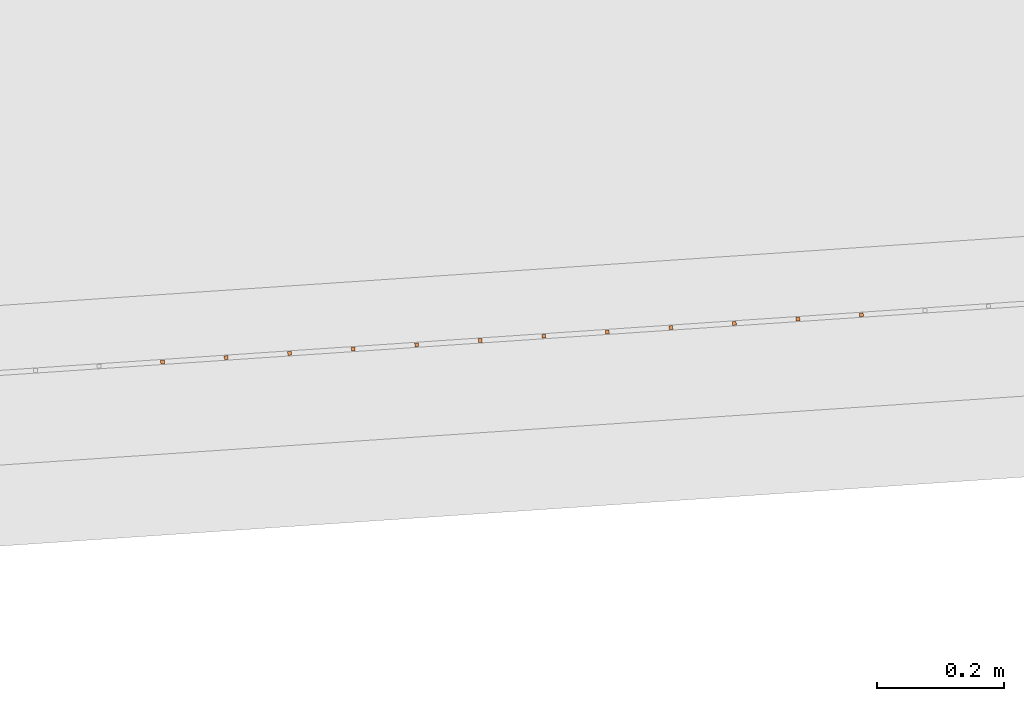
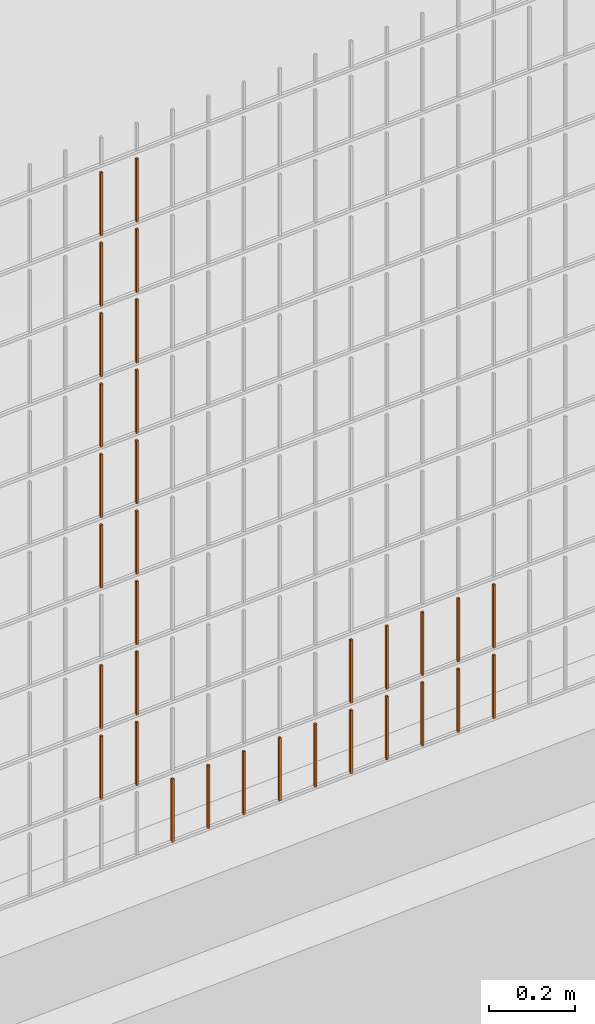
# One storey, part 330 of 1809: 32 proxies, 1 element without a shape of its own.
"""IFC2X3 building model written with IfcOpenShell, lengths in millimetres."""

from ifc_helpers import new_model, entity, si_unit, converted_unit, derived_unit, money_unit, direction, frame, origin_with_axes, place, context, subcontext, project, spatial, faceted_brep, source, transform, mapped, material, type_object, element, aggregate, save


model = new_model("IFC2X3")

# Units and contexts
model_context = context("Model", 3, precision=0.01, world=origin_with_axes(), true_north=direction((0.0, 1.0)))
body_context = subcontext(model_context, "Body", "Model", "MODEL_VIEW")
ifc_project = project(units=[si_unit("LENGTHUNIT", "METRE", prefix="MILLI"), si_unit("AREAUNIT", "SQUARE_METRE"), si_unit("VOLUMEUNIT", "CUBIC_METRE"), converted_unit("PLANEANGLEUNIT", "DEGREE", entity("IfcPlaneAngleMeasure", 0.0174532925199), si_unit("PLANEANGLEUNIT", "RADIAN"), dimensions=[0, 0, 0, 0, 0, 0, 0]), si_unit("SOLIDANGLEUNIT", "STERADIAN"), money_unit("EUR"), converted_unit("TIMEUNIT", "Year", entity("IfcTimeMeasure", 31556926.0), si_unit("TIMEUNIT", "SECOND"), dimensions=[0, 0, 1, 0, 0, 0, 0]), si_unit("MASSUNIT", "GRAM", prefix="KILO"), si_unit("THERMODYNAMICTEMPERATUREUNIT", "DEGREE_CELSIUS"), si_unit("LUMINOUSINTENSITYUNIT", "LUMEN"), si_unit("ENERGYUNIT", "JOULE", prefix="MEGA"), derived_unit("THERMALCONDUCTANCEUNIT", [(si_unit("POWERUNIT", "WATT"), 1), (si_unit("LENGTHUNIT", "METRE"), -1), (si_unit("THERMODYNAMICTEMPERATUREUNIT", "KELVIN"), -1)]), derived_unit("SPECIFICHEATCAPACITYUNIT", [(si_unit("ENERGYUNIT", "JOULE"), 1), (si_unit("MASSUNIT", "GRAM", prefix="KILO"), -1), (si_unit("THERMODYNAMICTEMPERATUREUNIT", "KELVIN"), -1)]), derived_unit("MASSDENSITYUNIT", [(si_unit("MASSUNIT", "GRAM", prefix="KILO"), 1), (si_unit("VOLUMEUNIT", "CUBIC_METRE"), -1)])], contexts=[model_context])

# Site, building, storey
site_placement = place(None, origin_with_axes())
site = spatial("IfcSite", under=ifc_project, at=site_placement, Name="Politse- ja Piirivalveameti ning Päästeameti ühishoone", CompositionType="ELEMENT")
building_placement = place(site_placement, origin_with_axes())
building = spatial("IfcBuilding", under=site, at=building_placement, Name="Politse- ja Piirivalveameti ning Päästeameti ühishoone", CompositionType="ELEMENT")
storey_placement = place(building_placement, origin_with_axes())
storey = spatial("IfcBuildingStorey", under=building, at=storey_placement, Name="Esimene korrus", CompositionType="ELEMENT", Elevation=0.0)

# Proxies
building_element_proxy_type_1 = type_object("IfcBuildingElementProxyType", Name="Railing Type", PredefinedType="NOTDEFINED")
proxy_1_placement = place(storey_placement, frame((89252.001212, -29183.4766571, 203.661247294), z_axis=(0.0, 0.0, 1.0), x_axis=(1.0, 0.0, 0.0)))
proxy_1 = element("IfcBuildingElementProxy", 1, at=proxy_1_placement, inside=storey, type_object=building_element_proxy_type_1, Name="PIIRDEAED")
ifc_material = material(Name="ET-03_Raud")
building_element_proxy_type_2 = type_object("IfcBuildingElementProxyType", Name="IfcBuildingElementProxy", PredefinedType="NOTDEFINED")
shared_shape_1 = source(origin_with_axes(), body_context, "Body", "Brep", [
    faceted_brep([(3.0, 3.0, -0.000752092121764), (-3.0, 3.0, -0.000752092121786), (-3.0, 3.0, 179.99926046), (3.0, 3.0, 179.99926046), (3.0, -3.0, 0.000752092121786), (-3.0, -3.0, 0.000752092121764), (-3.0, -3.0, 180.000764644), (3.0, -3.0, 180.000764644)], [[[0, 1, 2, 3]], [[0, 4, 5, 1]], [[1, 5, 6, 2]], [[3, 2, 6, 7]], [[4, 0, 3, 7]], [[5, 4, 7, 6]]]),
])
proxy_2_placement = place(proxy_1_placement, frame((-33650.011364, -19570.7060387, 18.7791934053), z_axis=(0.0, 0.0, 1.0), x_axis=(1.0, 0.0, 0.0)))
proxy_2 = element("IfcBuildingElementProxy", 2, at=proxy_2_placement, type_object=building_element_proxy_type_2, material=ifc_material, Name="BALUSTER - 001", context=body_context, shape_type="MappedRepresentation", body=[
    mapped(shared_shape_1, transform((0.0, 0.0, 0.0), x_axis=(-0.0673926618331, 0.997726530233, 0.0), y_axis=(-0.997726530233, -0.0673926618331, 0.0), z_axis=(0.0, 0.0, 1.0))),
])
shared_shape_2 = source(origin_with_axes(), body_context, "Body", "Brep", [
    faceted_brep([(3.0, 3.0, -0.000752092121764), (-3.0, 3.0, -0.000752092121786), (-3.0, 3.0, 179.99926046), (3.0, 3.0, 179.99926046), (3.0, -3.0, 0.000752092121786), (-3.0, -3.0, 0.000752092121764), (-3.0, -3.0, 180.000764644), (3.0, -3.0, 180.000764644)], [[[0, 1, 2, 3]], [[0, 4, 5, 1]], [[1, 5, 6, 2]], [[3, 2, 6, 7]], [[4, 0, 3, 7]], [[5, 4, 7, 6]]]),
])
proxy_3_placement = place(proxy_1_placement, frame((-34248.6472822, -19611.1416358, 218.628774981), z_axis=(0.0, 0.0, 1.0), x_axis=(1.0, 0.0, 0.0)))
proxy_3 = element("IfcBuildingElementProxy", 3, at=proxy_3_placement, type_object=building_element_proxy_type_2, material=ifc_material, Name="BALUSTER - 001", context=body_context, shape_type="MappedRepresentation", body=[
    mapped(shared_shape_2, transform((0.0, 0.0, 0.0), x_axis=(-0.0673926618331, 0.997726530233, 0.0), y_axis=(-0.997726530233, -0.0673926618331, 0.0), z_axis=(0.0, 0.0, 1.0))),
])
shared_shape_3 = source(origin_with_axes(), body_context, "Body", "Brep", [
    faceted_brep([(3.0, 3.0, -0.000752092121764), (-3.0, 3.0, -0.000752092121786), (-3.0, 3.0, 179.99926046), (3.0, 3.0, 179.99926046), (3.0, -3.0, 0.000752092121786), (-3.0, -3.0, 0.000752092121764), (-3.0, -3.0, 180.000764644), (3.0, -3.0, 180.000764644)], [[[0, 1, 2, 3]], [[0, 4, 5, 1]], [[1, 5, 6, 2]], [[3, 2, 6, 7]], [[4, 0, 3, 7]], [[5, 4, 7, 6]]]),
])
proxy_4_placement = place(proxy_1_placement, frame((-33650.011364, -19570.7060387, 218.779193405), z_axis=(0.0, 0.0, 1.0), x_axis=(1.0, 0.0, 0.0)))
proxy_4 = element("IfcBuildingElementProxy", 4, at=proxy_4_placement, type_object=building_element_proxy_type_2, material=ifc_material, Name="BALUSTER - 001", context=body_context, shape_type="MappedRepresentation", body=[
    mapped(shared_shape_3, transform((0.0, 0.0, 0.0), x_axis=(-0.0673926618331, 0.997726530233, 0.0), y_axis=(-0.997726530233, -0.0673926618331, 0.0), z_axis=(0.0, 0.0, 1.0))),
])
shared_shape_4 = source(origin_with_axes(), body_context, "Body", "Brep", [
    faceted_brep([(3.0, 3.0, -0.000752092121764), (-3.0, 3.0, -0.000752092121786), (-3.0, 3.0, 179.99926046), (3.0, 3.0, 179.99926046), (3.0, -3.0, 0.000752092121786), (-3.0, -3.0, 0.000752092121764), (-3.0, -3.0, 180.000764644), (3.0, -3.0, 180.000764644)], [[[0, 1, 2, 3]], [[0, 4, 5, 1]], [[1, 5, 6, 2]], [[3, 2, 6, 7]], [[4, 0, 3, 7]], [[5, 4, 7, 6]]]),
])
proxy_5_placement = place(proxy_1_placement, frame((-34248.6472822, -19611.1416358, 418.628774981), z_axis=(0.0, 0.0, 1.0), x_axis=(1.0, 0.0, 0.0)))
proxy_5 = element("IfcBuildingElementProxy", 5, at=proxy_5_placement, type_object=building_element_proxy_type_2, material=ifc_material, Name="BALUSTER - 001", context=body_context, shape_type="MappedRepresentation", body=[
    mapped(shared_shape_4, transform((0.0, 0.0, 0.0), x_axis=(-0.0673926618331, 0.997726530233, 0.0), y_axis=(-0.997726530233, -0.0673926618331, 0.0), z_axis=(0.0, 0.0, 1.0))),
])
shared_shape_5 = source(origin_with_axes(), body_context, "Body", "Brep", [
    faceted_brep([(3.0, 3.0, -0.000752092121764), (-3.0, 3.0, -0.000752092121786), (-3.0, 3.0, 179.99926046), (3.0, 3.0, 179.99926046), (3.0, -3.0, 0.000752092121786), (-3.0, -3.0, 0.000752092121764), (-3.0, -3.0, 180.000764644), (3.0, -3.0, 180.000764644)], [[[0, 1, 2, 3]], [[0, 4, 5, 1]], [[1, 5, 6, 2]], [[3, 2, 6, 7]], [[4, 0, 3, 7]], [[5, 4, 7, 6]]]),
])
proxy_6_placement = place(proxy_1_placement, frame((-34248.6472822, -19611.1416358, 618.628774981), z_axis=(0.0, 0.0, 1.0), x_axis=(1.0, 0.0, 0.0)))
proxy_6 = element("IfcBuildingElementProxy", 6, at=proxy_6_placement, type_object=building_element_proxy_type_2, material=ifc_material, Name="BALUSTER - 001", context=body_context, shape_type="MappedRepresentation", body=[
    mapped(shared_shape_5, transform((0.0, 0.0, 0.0), x_axis=(-0.0673926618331, 0.997726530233, 0.0), y_axis=(-0.997726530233, -0.0673926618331, 0.0), z_axis=(0.0, 0.0, 1.0))),
])
shared_shape_6 = source(origin_with_axes(), body_context, "Body", "Brep", [
    faceted_brep([(3.0, 3.0, -0.000752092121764), (-3.0, 3.0, -0.000752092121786), (-3.0, 3.0, 179.99926046), (3.0, 3.0, 179.99926046), (3.0, -3.0, 0.000752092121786), (-3.0, -3.0, 0.000752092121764), (-3.0, -3.0, 180.000764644), (3.0, -3.0, 180.000764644)], [[[0, 1, 2, 3]], [[0, 4, 5, 1]], [[1, 5, 6, 2]], [[3, 2, 6, 7]], [[4, 0, 3, 7]], [[5, 4, 7, 6]]]),
])
proxy_7_placement = place(proxy_1_placement, frame((-34248.6472822, -19611.1416358, 818.628774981), z_axis=(0.0, 0.0, 1.0), x_axis=(1.0, 0.0, 0.0)))
proxy_7 = element("IfcBuildingElementProxy", 7, at=proxy_7_placement, type_object=building_element_proxy_type_2, material=ifc_material, Name="BALUSTER - 001", context=body_context, shape_type="MappedRepresentation", body=[
    mapped(shared_shape_6, transform((0.0, 0.0, 0.0), x_axis=(-0.0673926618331, 0.997726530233, 0.0), y_axis=(-0.997726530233, -0.0673926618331, 0.0), z_axis=(0.0, 0.0, 1.0))),
])
shared_shape_7 = source(origin_with_axes(), body_context, "Body", "Brep", [
    faceted_brep([(3.0, 3.0, -0.000752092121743), (-3.0, 3.0, -0.000752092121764), (-3.0, 3.0, 179.99926046), (3.0, 3.0, 179.99926046), (3.0, -3.0, 0.000752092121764), (-3.0, -3.0, 0.000752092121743), (-3.0, -3.0, 180.000764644), (3.0, -3.0, 180.000764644)], [[[0, 1, 2, 3]], [[0, 4, 5, 1]], [[1, 5, 6, 2]], [[3, 2, 6, 7]], [[4, 0, 3, 7]], [[5, 4, 7, 6]]]),
])
proxy_8_placement = place(proxy_1_placement, frame((-34049.1019761, -19597.6631034, 18.6789144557), z_axis=(0.0, 0.0, 1.0), x_axis=(1.0, 0.0, 0.0)))
proxy_8 = element("IfcBuildingElementProxy", 8, at=proxy_8_placement, type_object=building_element_proxy_type_2, material=ifc_material, Name="BALUSTER - 001", context=body_context, shape_type="MappedRepresentation", body=[
    mapped(shared_shape_7, transform((0.0, 0.0, 0.0), x_axis=(-0.0673926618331, 0.997726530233, 0.0), y_axis=(-0.997726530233, -0.0673926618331, 0.0), z_axis=(0.0, 0.0, 1.0))),
])
shared_shape_8 = source(origin_with_axes(), body_context, "Body", "Brep", [
    faceted_brep([(3.0, 3.0, -0.000752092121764), (-3.0, 3.0, -0.000752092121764), (-3.0, 3.0, 179.99926046), (3.0, 3.0, 179.99926046), (3.0, -3.0, 0.000752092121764), (-3.0, -3.0, 0.000752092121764), (-3.0, -3.0, 180.000764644), (3.0, -3.0, 180.000764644)], [[[0, 1, 2, 3]], [[0, 4, 5, 1]], [[1, 5, 6, 2]], [[3, 2, 6, 7]], [[4, 0, 3, 7]], [[5, 4, 7, 6]]]),
])
proxy_9_placement = place(proxy_1_placement, frame((-33749.7840171, -19577.4453049, 18.7541236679), z_axis=(0.0, 0.0, 1.0), x_axis=(1.0, 0.0, 0.0)))
proxy_9 = element("IfcBuildingElementProxy", 9, at=proxy_9_placement, type_object=building_element_proxy_type_2, material=ifc_material, Name="BALUSTER - 001", context=body_context, shape_type="MappedRepresentation", body=[
    mapped(shared_shape_8, transform((0.0, 0.0, 0.0), x_axis=(-0.0673926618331, 0.997726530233, 0.0), y_axis=(-0.997726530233, -0.0673926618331, 0.0), z_axis=(0.0, 0.0, 1.0))),
])
shared_shape_9 = source(origin_with_axes(), body_context, "Body", "Brep", [
    faceted_brep([(3.0, 3.0, -0.000752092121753), (-3.0, 3.0, -0.000752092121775), (-3.0, 3.0, 179.99926046), (3.0, 3.0, 179.99926046), (3.0, -3.0, 0.000752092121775), (-3.0, -3.0, 0.000752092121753), (-3.0, -3.0, 180.000764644), (3.0, -3.0, 180.000764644)], [[[0, 1, 2, 3]], [[0, 4, 5, 1]], [[1, 5, 6, 2]], [[3, 2, 6, 7]], [[4, 0, 3, 7]], [[5, 4, 7, 6]]]),
])
proxy_10_placement = place(proxy_1_placement, frame((-34148.8746292, -19604.4023696, 18.6538447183), z_axis=(0.0, 0.0, 1.0), x_axis=(1.0, 0.0, 0.0)))
proxy_10 = element("IfcBuildingElementProxy", 10, at=proxy_10_placement, type_object=building_element_proxy_type_2, material=ifc_material, Name="BALUSTER - 001", context=body_context, shape_type="MappedRepresentation", body=[
    mapped(shared_shape_9, transform((0.0, 0.0, 0.0), x_axis=(-0.0673926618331, 0.997726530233, 0.0), y_axis=(-0.997726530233, -0.0673926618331, 0.0), z_axis=(0.0, 0.0, 1.0))),
])
shared_shape_10 = source(origin_with_axes(), body_context, "Body", "Brep", [
    faceted_brep([(3.0, 3.0, -0.000752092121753), (-3.0, 3.0, -0.000752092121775), (-3.0, 3.0, 179.99926046), (3.0, 3.0, 179.99926046), (3.0, -3.0, 0.000752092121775), (-3.0, -3.0, 0.000752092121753), (-3.0, -3.0, 180.000764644), (3.0, -3.0, 180.000764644)], [[[0, 1, 2, 3]], [[0, 4, 5, 1]], [[1, 5, 6, 2]], [[3, 2, 6, 7]], [[4, 0, 3, 7]], [[5, 4, 7, 6]]]),
])
proxy_11_placement = place(proxy_1_placement, frame((-33350.693405, -19550.4882401, 218.854402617), z_axis=(0.0, 0.0, 1.0), x_axis=(1.0, 0.0, 0.0)))
proxy_11 = element("IfcBuildingElementProxy", 11, at=proxy_11_placement, type_object=building_element_proxy_type_2, material=ifc_material, Name="BALUSTER - 001", context=body_context, shape_type="MappedRepresentation", body=[
    mapped(shared_shape_10, transform((0.0, 0.0, 0.0), x_axis=(-0.0673926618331, 0.997726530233, 0.0), y_axis=(-0.997726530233, -0.0673926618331, 0.0), z_axis=(0.0, 0.0, 1.0))),
])
shared_shape_11 = source(origin_with_axes(), body_context, "Body", "Brep", [
    faceted_brep([(3.0, 3.0, -0.000752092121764), (-3.0, 3.0, -0.000752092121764), (-3.0, 3.0, 179.99926046), (3.0, 3.0, 179.99926046), (3.0, -3.0, 0.000752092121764), (-3.0, -3.0, 0.000752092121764), (-3.0, -3.0, 180.000764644), (3.0, -3.0, 180.000764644)], [[[0, 1, 2, 3]], [[0, 4, 5, 1]], [[1, 5, 6, 2]], [[3, 2, 6, 7]], [[4, 0, 3, 7]], [[5, 4, 7, 6]]]),
])
proxy_12_placement = place(proxy_1_placement, frame((-34348.4199352, -19617.880902, 418.603705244), z_axis=(0.0, 0.0, 1.0), x_axis=(1.0, 0.0, 0.0)))
proxy_12 = element("IfcBuildingElementProxy", 12, at=proxy_12_placement, type_object=building_element_proxy_type_2, material=ifc_material, Name="BALUSTER - 001", context=body_context, shape_type="MappedRepresentation", body=[
    mapped(shared_shape_11, transform((0.0, 0.0, 0.0), x_axis=(-0.0673926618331, 0.997726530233, 0.0), y_axis=(-0.997726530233, -0.0673926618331, 0.0), z_axis=(0.0, 0.0, 1.0))),
])
shared_shape_12 = source(origin_with_axes(), body_context, "Body", "Brep", [
    faceted_brep([(3.0, 3.0, -0.000752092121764), (-3.0, 3.0, -0.000752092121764), (-3.0, 3.0, 179.99926046), (3.0, 3.0, 179.99926046), (3.0, -3.0, 0.000752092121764), (-3.0, -3.0, 0.000752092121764), (-3.0, -3.0, 180.000764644), (3.0, -3.0, 180.000764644)], [[[0, 1, 2, 3]], [[0, 4, 5, 1]], [[1, 5, 6, 2]], [[3, 2, 6, 7]], [[4, 0, 3, 7]], [[5, 4, 7, 6]]]),
])
proxy_13_placement = place(proxy_1_placement, frame((-33450.466058, -19557.2275063, 218.82933288), z_axis=(0.0, 0.0, 1.0), x_axis=(1.0, 0.0, 0.0)))
proxy_13 = element("IfcBuildingElementProxy", 13, at=proxy_13_placement, type_object=building_element_proxy_type_2, material=ifc_material, Name="BALUSTER - 001", context=body_context, shape_type="MappedRepresentation", body=[
    mapped(shared_shape_12, transform((0.0, 0.0, 0.0), x_axis=(-0.0673926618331, 0.997726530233, 0.0), y_axis=(-0.997726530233, -0.0673926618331, 0.0), z_axis=(0.0, 0.0, 1.0))),
])
shared_shape_13 = source(origin_with_axes(), body_context, "Body", "Brep", [
    faceted_brep([(3.0, 3.0, -0.000752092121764), (-3.0, 3.0, -0.000752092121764), (-3.0, 3.0, 179.99926046), (3.0, 3.0, 179.99926046), (3.0, -3.0, 0.000752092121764), (-3.0, -3.0, 0.000752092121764), (-3.0, -3.0, 180.000764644), (3.0, -3.0, 180.000764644)], [[[0, 1, 2, 3]], [[0, 4, 5, 1]], [[1, 5, 6, 2]], [[3, 2, 6, 7]], [[4, 0, 3, 7]], [[5, 4, 7, 6]]]),
])
proxy_14_placement = place(proxy_1_placement, frame((-34348.4199352, -19617.880902, 1218.60370524), z_axis=(0.0, 0.0, 1.0), x_axis=(1.0, 0.0, 0.0)))
proxy_14 = element("IfcBuildingElementProxy", 14, at=proxy_14_placement, type_object=building_element_proxy_type_2, material=ifc_material, Name="BALUSTER - 001", context=body_context, shape_type="MappedRepresentation", body=[
    mapped(shared_shape_13, transform((0.0, 0.0, 0.0), x_axis=(-0.0673926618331, 0.997726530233, 0.0), y_axis=(-0.997726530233, -0.0673926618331, 0.0), z_axis=(0.0, 0.0, 1.0))),
])
shared_shape_14 = source(origin_with_axes(), body_context, "Body", "Brep", [
    faceted_brep([(3.0, 3.0, -0.000752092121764), (-3.0, 3.0, -0.000752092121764), (-3.0, 3.0, 179.99926046), (3.0, 3.0, 179.99926046), (3.0, -3.0, 0.000752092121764), (-3.0, -3.0, 0.000752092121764), (-3.0, -3.0, 180.000764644), (3.0, -3.0, 180.000764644)], [[[0, 1, 2, 3]], [[0, 4, 5, 1]], [[1, 5, 6, 2]], [[3, 2, 6, 7]], [[4, 0, 3, 7]], [[5, 4, 7, 6]]]),
])
proxy_15_placement = place(proxy_1_placement, frame((-34348.4199352, -19617.880902, 818.603705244), z_axis=(0.0, 0.0, 1.0), x_axis=(1.0, 0.0, 0.0)))
proxy_15 = element("IfcBuildingElementProxy", 15, at=proxy_15_placement, type_object=building_element_proxy_type_2, material=ifc_material, Name="BALUSTER - 001", context=body_context, shape_type="MappedRepresentation", body=[
    mapped(shared_shape_14, transform((0.0, 0.0, 0.0), x_axis=(-0.0673926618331, 0.997726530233, 0.0), y_axis=(-0.997726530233, -0.0673926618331, 0.0), z_axis=(0.0, 0.0, 1.0))),
])
proxy_16_placement = place(proxy_1_placement, frame((-34348.4199352, -19617.880902, 1818.60370524), z_axis=(0.0, 0.0, 1.0), x_axis=(1.0, 0.0, 0.0)))
proxy_16 = element("IfcBuildingElementProxy", 16, at=proxy_16_placement, type_object=building_element_proxy_type_2, material=ifc_material, Name="BALUSTER - 001", context=body_context, shape_type="MappedRepresentation", body=[
    mapped(shared_shape_14, transform((0.0, 0.0, 0.0), x_axis=(-0.0673926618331, 0.997726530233, 0.0), y_axis=(-0.997726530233, -0.0673926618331, 0.0), z_axis=(0.0, 0.0, 1.0))),
])
shared_shape_15 = source(origin_with_axes(), body_context, "Body", "Brep", [
    faceted_brep([(3.0, 3.0, -0.000752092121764), (-3.0, 3.0, -0.000752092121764), (-3.0, 3.0, 179.99926046), (3.0, 3.0, 179.99926046), (3.0, -3.0, 0.000752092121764), (-3.0, -3.0, 0.000752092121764), (-3.0, -3.0, 180.000764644), (3.0, -3.0, 180.000764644)], [[[0, 1, 2, 3]], [[0, 4, 5, 1]], [[1, 5, 6, 2]], [[3, 2, 6, 7]], [[4, 0, 3, 7]], [[5, 4, 7, 6]]]),
])
proxy_17_placement = place(proxy_1_placement, frame((-34348.4199352, -19617.880902, 1418.60370524), z_axis=(0.0, 0.0, 1.0), x_axis=(1.0, 0.0, 0.0)))
proxy_17 = element("IfcBuildingElementProxy", 17, at=proxy_17_placement, type_object=building_element_proxy_type_2, material=ifc_material, Name="BALUSTER - 001", context=body_context, shape_type="MappedRepresentation", body=[
    mapped(shared_shape_15, transform((0.0, 0.0, 0.0), x_axis=(-0.0673926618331, 0.997726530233, 0.0), y_axis=(-0.997726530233, -0.0673926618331, 0.0), z_axis=(0.0, 0.0, 1.0))),
])
proxy_18_placement = place(proxy_1_placement, frame((-34348.4199352, -19617.880902, 1618.60370524), z_axis=(0.0, 0.0, 1.0), x_axis=(1.0, 0.0, 0.0)))
proxy_18 = element("IfcBuildingElementProxy", 18, at=proxy_18_placement, type_object=building_element_proxy_type_2, material=ifc_material, Name="BALUSTER - 001", context=body_context, shape_type="MappedRepresentation", body=[
    mapped(shared_shape_15, transform((0.0, 0.0, 0.0), x_axis=(-0.0673926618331, 0.997726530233, 0.0), y_axis=(-0.997726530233, -0.0673926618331, 0.0), z_axis=(0.0, 0.0, 1.0))),
])
shared_shape_16 = source(origin_with_axes(), body_context, "Body", "Brep", [
    faceted_brep([(3.0, 3.0, -0.000752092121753), (-3.0, 3.0, -0.000752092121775), (-3.0, 3.0, 179.99926046), (3.0, 3.0, 179.99926046), (3.0, -3.0, 0.000752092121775), (-3.0, -3.0, 0.000752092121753), (-3.0, -3.0, 180.000764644), (3.0, -3.0, 180.000764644)], [[[0, 1, 2, 3]], [[0, 4, 5, 1]], [[1, 5, 6, 2]], [[3, 2, 6, 7]], [[4, 0, 3, 7]], [[5, 4, 7, 6]]]),
])
proxy_19_placement = place(proxy_1_placement, frame((-33350.693405, -19550.4882401, 18.8544026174), z_axis=(0.0, 0.0, 1.0), x_axis=(1.0, 0.0, 0.0)))
proxy_19 = element("IfcBuildingElementProxy", 19, at=proxy_19_placement, type_object=building_element_proxy_type_2, material=ifc_material, Name="BALUSTER - 001", context=body_context, shape_type="MappedRepresentation", body=[
    mapped(shared_shape_16, transform((0.0, 0.0, 0.0), x_axis=(-0.0673926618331, 0.997726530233, 0.0), y_axis=(-0.997726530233, -0.0673926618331, 0.0), z_axis=(0.0, 0.0, 1.0))),
])
shared_shape_17 = source(origin_with_axes(), body_context, "Body", "Brep", [
    faceted_brep([(3.0, 3.0, -0.000752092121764), (-3.0, 3.0, -0.000752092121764), (-3.0, 3.0, 179.99926046), (3.0, 3.0, 179.99926046), (3.0, -3.0, 0.000752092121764), (-3.0, -3.0, 0.000752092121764), (-3.0, -3.0, 180.000764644), (3.0, -3.0, 180.000764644)], [[[0, 1, 2, 3]], [[0, 4, 5, 1]], [[1, 5, 6, 2]], [[3, 2, 6, 7]], [[4, 0, 3, 7]], [[5, 4, 7, 6]]]),
])
proxy_20_placement = place(proxy_1_placement, frame((-33949.3293231, -19590.9238372, 18.7039841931), z_axis=(0.0, 0.0, 1.0), x_axis=(1.0, 0.0, 0.0)))
proxy_20 = element("IfcBuildingElementProxy", 20, at=proxy_20_placement, type_object=building_element_proxy_type_2, material=ifc_material, Name="BALUSTER - 001", context=body_context, shape_type="MappedRepresentation", body=[
    mapped(shared_shape_17, transform((0.0, 0.0, 0.0), x_axis=(-0.0673926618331, 0.997726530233, 0.0), y_axis=(-0.997726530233, -0.0673926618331, 0.0), z_axis=(0.0, 0.0, 1.0))),
])
shared_shape_18 = source(origin_with_axes(), body_context, "Body", "Brep", [
    faceted_brep([(3.0, 3.0, -0.000752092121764), (-3.0, 3.0, -0.000752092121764), (-3.0, 3.0, 179.99926046), (3.0, 3.0, 179.99926046), (3.0, -3.0, 0.000752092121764), (-3.0, -3.0, 0.000752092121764), (-3.0, -3.0, 180.000764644), (3.0, -3.0, 180.000764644)], [[[0, 1, 2, 3]], [[0, 4, 5, 1]], [[1, 5, 6, 2]], [[3, 2, 6, 7]], [[4, 0, 3, 7]], [[5, 4, 7, 6]]]),
])
proxy_21_placement = place(proxy_1_placement, frame((-33250.9207519, -19543.748974, 18.8794723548), z_axis=(0.0, 0.0, 1.0), x_axis=(1.0, 0.0, 0.0)))
proxy_21 = element("IfcBuildingElementProxy", 21, at=proxy_21_placement, type_object=building_element_proxy_type_2, material=ifc_material, Name="BALUSTER - 001", context=body_context, shape_type="MappedRepresentation", body=[
    mapped(shared_shape_18, transform((0.0, 0.0, 0.0), x_axis=(-0.0673926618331, 0.997726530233, 0.0), y_axis=(-0.997726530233, -0.0673926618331, 0.0), z_axis=(0.0, 0.0, 1.0))),
])
proxy_22_placement = place(proxy_1_placement, frame((-33250.9207519, -19543.748974, 218.879472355), z_axis=(0.0, 0.0, 1.0), x_axis=(1.0, 0.0, 0.0)))
proxy_22 = element("IfcBuildingElementProxy", 22, at=proxy_22_placement, type_object=building_element_proxy_type_2, material=ifc_material, Name="BALUSTER - 001", context=body_context, shape_type="MappedRepresentation", body=[
    mapped(shared_shape_18, transform((0.0, 0.0, 0.0), x_axis=(-0.0673926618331, 0.997726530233, 0.0), y_axis=(-0.997726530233, -0.0673926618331, 0.0), z_axis=(0.0, 0.0, 1.0))),
])
shared_shape_19 = source(origin_with_axes(), body_context, "Body", "Brep", [
    faceted_brep([(3.0, 3.0, -0.000752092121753), (-3.0, 3.0, -0.000752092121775), (-3.0, 3.0, 179.99926046), (3.0, 3.0, 179.99926046), (3.0, -3.0, 0.000752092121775), (-3.0, -3.0, 0.000752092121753), (-3.0, -3.0, 180.000764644), (3.0, -3.0, 180.000764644)], [[[0, 1, 2, 3]], [[0, 4, 5, 1]], [[1, 5, 6, 2]], [[3, 2, 6, 7]], [[4, 0, 3, 7]], [[5, 4, 7, 6]]]),
])
proxy_23_placement = place(proxy_1_placement, frame((-34248.6472822, -19611.1416358, 1218.62877498), z_axis=(0.0, 0.0, 1.0), x_axis=(1.0, 0.0, 0.0)))
proxy_23 = element("IfcBuildingElementProxy", 23, at=proxy_23_placement, type_object=building_element_proxy_type_2, material=ifc_material, Name="BALUSTER - 001", context=body_context, shape_type="MappedRepresentation", body=[
    mapped(shared_shape_19, transform((0.0, 0.0, 0.0), x_axis=(-0.0673926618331, 0.997726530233, 0.0), y_axis=(-0.997726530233, -0.0673926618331, 0.0), z_axis=(0.0, 0.0, 1.0))),
])
shared_shape_20 = source(origin_with_axes(), body_context, "Body", "Brep", [
    faceted_brep([(3.0, 3.0, -0.000752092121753), (-3.0, 3.0, -0.000752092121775), (-3.0, 3.0, 179.99926046), (3.0, 3.0, 179.99926046), (3.0, -3.0, 0.000752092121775), (-3.0, -3.0, 0.000752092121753), (-3.0, -3.0, 180.000764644), (3.0, -3.0, 180.000764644)], [[[0, 1, 2, 3]], [[0, 4, 5, 1]], [[1, 5, 6, 2]], [[3, 2, 6, 7]], [[4, 0, 3, 7]], [[5, 4, 7, 6]]]),
])
proxy_24_placement = place(proxy_1_placement, frame((-34248.6472822, -19611.1416358, 1418.62877498), z_axis=(0.0, 0.0, 1.0), x_axis=(1.0, 0.0, 0.0)))
proxy_24 = element("IfcBuildingElementProxy", 24, at=proxy_24_placement, type_object=building_element_proxy_type_2, material=ifc_material, Name="BALUSTER - 001", context=body_context, shape_type="MappedRepresentation", body=[
    mapped(shared_shape_20, transform((0.0, 0.0, 0.0), x_axis=(-0.0673926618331, 0.997726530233, 0.0), y_axis=(-0.997726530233, -0.0673926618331, 0.0), z_axis=(0.0, 0.0, 1.0))),
])
proxy_25_placement = place(proxy_1_placement, frame((-34248.6472822, -19611.1416358, 1618.62877498), z_axis=(0.0, 0.0, 1.0), x_axis=(1.0, 0.0, 0.0)))
proxy_25 = element("IfcBuildingElementProxy", 25, at=proxy_25_placement, type_object=building_element_proxy_type_2, material=ifc_material, Name="BALUSTER - 001", context=body_context, shape_type="MappedRepresentation", body=[
    mapped(shared_shape_20, transform((0.0, 0.0, 0.0), x_axis=(-0.0673926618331, 0.997726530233, 0.0), y_axis=(-0.997726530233, -0.0673926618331, 0.0), z_axis=(0.0, 0.0, 1.0))),
])
shared_shape_21 = source(origin_with_axes(), body_context, "Body", "Brep", [
    faceted_brep([(3.0, 3.0, -0.000752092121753), (-3.0, 3.0, -0.000752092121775), (-3.0, 3.0, 179.99926046), (3.0, 3.0, 179.99926046), (3.0, -3.0, 0.000752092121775), (-3.0, -3.0, 0.000752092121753), (-3.0, -3.0, 180.000764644), (3.0, -3.0, 180.000764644)], [[[0, 1, 2, 3]], [[0, 4, 5, 1]], [[1, 5, 6, 2]], [[3, 2, 6, 7]], [[4, 0, 3, 7]], [[5, 4, 7, 6]]]),
])
proxy_26_placement = place(proxy_1_placement, frame((-34248.6472822, -19611.1416358, 1818.62877498), z_axis=(0.0, 0.0, 1.0), x_axis=(1.0, 0.0, 0.0)))
proxy_26 = element("IfcBuildingElementProxy", 26, at=proxy_26_placement, type_object=building_element_proxy_type_2, material=ifc_material, Name="BALUSTER - 001", context=body_context, shape_type="MappedRepresentation", body=[
    mapped(shared_shape_21, transform((0.0, 0.0, 0.0), x_axis=(-0.0673926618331, 0.997726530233, 0.0), y_axis=(-0.997726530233, -0.0673926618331, 0.0), z_axis=(0.0, 0.0, 1.0))),
])
shared_shape_22 = source(origin_with_axes(), body_context, "Body", "Brep", [
    faceted_brep([(3.0, 3.0, -0.000752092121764), (-3.0, 3.0, -0.000752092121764), (-3.0, 3.0, 179.99926046), (3.0, 3.0, 179.99926046), (3.0, -3.0, 0.000752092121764), (-3.0, -3.0, 0.000752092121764), (-3.0, -3.0, 180.000764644), (3.0, -3.0, 180.000764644)], [[[0, 1, 2, 3]], [[0, 4, 5, 1]], [[1, 5, 6, 2]], [[3, 2, 6, 7]], [[4, 0, 3, 7]], [[5, 4, 7, 6]]]),
])
proxy_27_placement = place(proxy_1_placement, frame((-33450.466058, -19557.2275063, 18.82933288), z_axis=(0.0, 0.0, 1.0), x_axis=(1.0, 0.0, 0.0)))
proxy_27 = element("IfcBuildingElementProxy", 27, at=proxy_27_placement, type_object=building_element_proxy_type_2, material=ifc_material, Name="BALUSTER - 001", context=body_context, shape_type="MappedRepresentation", body=[
    mapped(shared_shape_22, transform((0.0, 0.0, 0.0), x_axis=(-0.0673926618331, 0.997726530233, 0.0), y_axis=(-0.997726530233, -0.0673926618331, 0.0), z_axis=(0.0, 0.0, 1.0))),
])
shared_shape_23 = source(origin_with_axes(), body_context, "Body", "Brep", [
    faceted_brep([(3.0, 3.0, -0.000752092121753), (-3.0, 3.0, -0.000752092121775), (-3.0, 3.0, 179.99926046), (3.0, 3.0, 179.99926046), (3.0, -3.0, 0.000752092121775), (-3.0, -3.0, 0.000752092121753), (-3.0, -3.0, 180.000764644), (3.0, -3.0, 180.000764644)], [[[0, 1, 2, 3]], [[0, 4, 5, 1]], [[1, 5, 6, 2]], [[3, 2, 6, 7]], [[4, 0, 3, 7]], [[5, 4, 7, 6]]]),
])
proxy_28_placement = place(proxy_1_placement, frame((-33550.238711, -19563.9667725, 18.8042631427), z_axis=(0.0, 0.0, 1.0), x_axis=(1.0, 0.0, 0.0)))
proxy_28 = element("IfcBuildingElementProxy", 28, at=proxy_28_placement, type_object=building_element_proxy_type_2, material=ifc_material, Name="BALUSTER - 001", context=body_context, shape_type="MappedRepresentation", body=[
    mapped(shared_shape_23, transform((0.0, 0.0, 0.0), x_axis=(-0.0673926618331, 0.997726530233, 0.0), y_axis=(-0.997726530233, -0.0673926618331, 0.0), z_axis=(0.0, 0.0, 1.0))),
])
shared_shape_24 = source(origin_with_axes(), body_context, "Body", "Brep", [
    faceted_brep([(3.0, 3.0, -0.000752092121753), (-3.0, 3.0, -0.000752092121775), (-3.0, 3.0, 179.99926046), (3.0, 3.0, 179.99926046), (3.0, -3.0, 0.000752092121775), (-3.0, -3.0, 0.000752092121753), (-3.0, -3.0, 180.000764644), (3.0, -3.0, 180.000764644)], [[[0, 1, 2, 3]], [[0, 4, 5, 1]], [[1, 5, 6, 2]], [[3, 2, 6, 7]], [[4, 0, 3, 7]], [[5, 4, 7, 6]]]),
])
proxy_29_placement = place(proxy_1_placement, frame((-33550.238711, -19563.9667725, 218.804263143), z_axis=(0.0, 0.0, 1.0), x_axis=(1.0, 0.0, 0.0)))
proxy_29 = element("IfcBuildingElementProxy", 29, at=proxy_29_placement, type_object=building_element_proxy_type_2, material=ifc_material, Name="BALUSTER - 001", context=body_context, shape_type="MappedRepresentation", body=[
    mapped(shared_shape_24, transform((0.0, 0.0, 0.0), x_axis=(-0.0673926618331, 0.997726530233, 0.0), y_axis=(-0.997726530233, -0.0673926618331, 0.0), z_axis=(0.0, 0.0, 1.0))),
])
shared_shape_25 = source(origin_with_axes(), body_context, "Body", "Brep", [
    faceted_brep([(3.0, 3.0, -0.000752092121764), (-3.0, 3.0, -0.000752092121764), (-3.0, 3.0, 179.99926046), (3.0, 3.0, 179.99926046), (3.0, -3.0, 0.000752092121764), (-3.0, -3.0, 0.000752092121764), (-3.0, -3.0, 180.000764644), (3.0, -3.0, 180.000764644)], [[[0, 1, 2, 3]], [[0, 4, 5, 1]], [[1, 5, 6, 2]], [[3, 2, 6, 7]], [[4, 0, 3, 7]], [[5, 4, 7, 6]]]),
])
proxy_30_placement = place(proxy_1_placement, frame((-33849.5566701, -19584.1845711, 18.7290539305), z_axis=(0.0, 0.0, 1.0), x_axis=(1.0, 0.0, 0.0)))
proxy_30 = element("IfcBuildingElementProxy", 30, at=proxy_30_placement, type_object=building_element_proxy_type_2, material=ifc_material, Name="BALUSTER - 001", context=body_context, shape_type="MappedRepresentation", body=[
    mapped(shared_shape_25, transform((0.0, 0.0, 0.0), x_axis=(-0.0673926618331, 0.997726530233, 0.0), y_axis=(-0.997726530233, -0.0673926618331, 0.0), z_axis=(0.0, 0.0, 1.0))),
])
shared_shape_26 = source(origin_with_axes(), body_context, "Body", "Brep", [
    faceted_brep([(3.0, 3.0, -0.000752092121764), (-3.0, 3.0, -0.000752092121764), (-3.0, 3.0, 179.99926046), (3.0, 3.0, 179.99926046), (3.0, -3.0, 0.000752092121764), (-3.0, -3.0, 0.000752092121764), (-3.0, -3.0, 180.000764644), (3.0, -3.0, 180.000764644)], [[[0, 1, 2, 3]], [[0, 4, 5, 1]], [[1, 5, 6, 2]], [[3, 2, 6, 7]], [[4, 0, 3, 7]], [[5, 4, 7, 6]]]),
])
proxy_31_placement = place(proxy_1_placement, frame((-34348.4199352, -19617.880902, 218.603705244), z_axis=(0.0, 0.0, 1.0), x_axis=(1.0, 0.0, 0.0)))
proxy_31 = element("IfcBuildingElementProxy", 31, at=proxy_31_placement, type_object=building_element_proxy_type_2, material=ifc_material, Name="BALUSTER - 001", context=body_context, shape_type="MappedRepresentation", body=[
    mapped(shared_shape_26, transform((0.0, 0.0, 0.0), x_axis=(-0.0673926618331, 0.997726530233, 0.0), y_axis=(-0.997726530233, -0.0673926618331, 0.0), z_axis=(0.0, 0.0, 1.0))),
])
shared_shape_27 = source(origin_with_axes(), body_context, "Body", "Brep", [
    faceted_brep([(3.0, 3.0, -0.000752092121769), (-3.0, 3.0, -0.00075209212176), (-3.00000000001, 3.0, 179.99926046), (2.99999999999, 3.0, 179.99926046), (3.0, -3.0, 0.00075209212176), (-3.0, -3.0, 0.000752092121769), (-3.00000000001, -3.0, 180.000764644), (2.99999999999, -3.0, 180.000764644)], [[[0, 1, 2, 3]], [[0, 4, 5, 1]], [[1, 5, 6, 2]], [[3, 2, 6, 7]], [[4, 0, 3, 7]], [[5, 4, 7, 6]]]),
])
proxy_32_placement = place(proxy_1_placement, frame((-34248.6472822, -19611.1416358, 1018.62877498), z_axis=(0.0, 0.0, 1.0), x_axis=(1.0, 0.0, 0.0)))
proxy_32 = element("IfcBuildingElementProxy", 32, at=proxy_32_placement, type_object=building_element_proxy_type_2, material=ifc_material, Name="BALUSTER - 001", context=body_context, shape_type="MappedRepresentation", body=[
    mapped(shared_shape_27, transform((0.0, 0.0, 0.0), x_axis=(-0.0673926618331, 0.997726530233, 0.0), y_axis=(-0.997726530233, -0.0673926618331, 0.0), z_axis=(0.0, 0.0, 1.0))),
])
shared_shape_28 = source(origin_with_axes(), body_context, "Body", "Brep", [
    faceted_brep([(3.0, 3.0, -0.000752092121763), (-3.0, 3.0, -0.000752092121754), (-3.00000000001, 2.99999999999, 179.99926046), (2.99999999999, 2.99999999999, 179.99926046), (3.0, -3.0, 0.000752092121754), (-3.0, -3.0, 0.000752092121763), (-3.00000000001, -3.00000000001, 180.000764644), (2.99999999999, -3.00000000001, 180.000764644)], [[[0, 1, 2, 3]], [[0, 4, 5, 1]], [[1, 5, 6, 2]], [[3, 2, 6, 7]], [[4, 0, 3, 7]], [[5, 4, 7, 6]]]),
])
proxy_33_placement = place(proxy_1_placement, frame((-34348.4199352, -19617.880902, 1018.60370524), z_axis=(0.0, 0.0, 1.0), x_axis=(1.0, 0.0, 0.0)))
proxy_33 = element("IfcBuildingElementProxy", 33, at=proxy_33_placement, type_object=building_element_proxy_type_2, material=ifc_material, Name="BALUSTER - 001", context=body_context, shape_type="MappedRepresentation", body=[
    mapped(shared_shape_28, transform((0.0, 0.0, 0.0), x_axis=(-0.0673926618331, 0.997726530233, 0.0), y_axis=(-0.997726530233, -0.0673926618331, 0.0), z_axis=(0.0, 0.0, 1.0))),
])
aggregate(proxy_1, [proxy_21, proxy_19, proxy_27, proxy_28, proxy_2, proxy_9, proxy_30, proxy_20, proxy_8, proxy_10, proxy_22, proxy_11, proxy_13, proxy_29, proxy_4, proxy_3, proxy_31, proxy_5, proxy_12, proxy_6, proxy_7, proxy_15, proxy_32, proxy_33, proxy_23, proxy_14, proxy_24, proxy_17, proxy_25, proxy_18, proxy_26, proxy_16])

save(model, "model.ifc")
